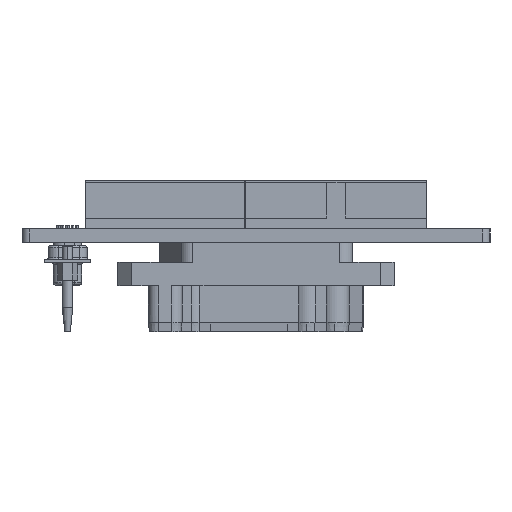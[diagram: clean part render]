
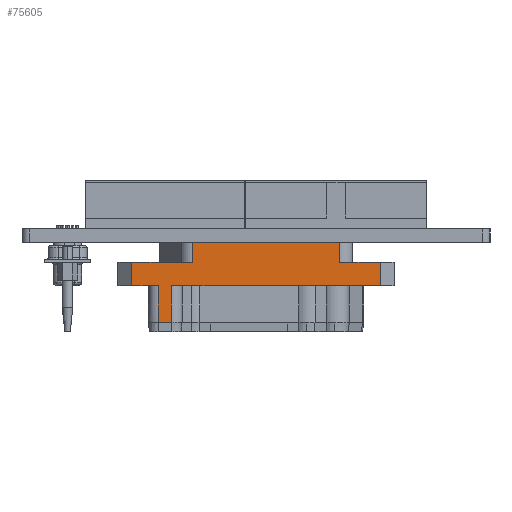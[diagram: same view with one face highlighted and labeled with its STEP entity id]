
A CAD part, left-side view. The second image highlights one B-rep face of the part: STEP entity #75605.
In plain terms, the highlighted planar face has unit normal (-1, 0, 0).
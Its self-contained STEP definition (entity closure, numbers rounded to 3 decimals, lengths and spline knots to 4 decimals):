
#4211=DIRECTION('',(0.,-1.,0.));
#4212=VECTOR('',#4211,1.5938);
#4213=CARTESIAN_POINT('',(-4.6139,0.6868,-0.142));
#4214=LINE('',#4213,#4212);
#25629=DIRECTION('',(0.,-1.,0.));
#25630=VECTOR('',#25629,0.438);
#25631=CARTESIAN_POINT('',(-4.6139,-0.907,-0.362));
#25632=LINE('',#25631,#25630);
#25633=DIRECTION('',(0.,0.,-1.));
#25634=VECTOR('',#25633,0.25);
#25635=CARTESIAN_POINT('',(-4.6139,-1.345,-0.362));
#25636=LINE('',#25635,#25634);
#25637=DIRECTION('',(0.,-1.,0.));
#25638=VECTOR('',#25637,0.6582);
#25639=CARTESIAN_POINT('',(-4.6139,1.345,-0.362));
#25640=LINE('',#25639,#25638);
#25645=DIRECTION('',(0.,0.,1.));
#25646=VECTOR('',#25645,0.22);
#25647=CARTESIAN_POINT('',(-4.6139,-0.907,-0.362));
#25648=LINE('',#25647,#25646);
#25697=DIRECTION('',(0.,0.,-1.));
#25698=VECTOR('',#25697,0.22);
#25699=CARTESIAN_POINT('',(-4.6139,0.6868,-0.142));
#25700=LINE('',#25699,#25698);
#25740=DIRECTION('',(0.,0.,-1.));
#25741=VECTOR('',#25740,0.25);
#25742=CARTESIAN_POINT('',(-4.6139,1.345,-0.362));
#25743=LINE('',#25742,#25741);
#25779=DIRECTION('',(0.,-1.,0.));
#25780=VECTOR('',#25779,0.2888);
#25781=CARTESIAN_POINT('',(-4.6139,1.345,-0.612));
#25782=LINE('',#25781,#25780);
#26187=DIRECTION('',(0.,0.,-1.));
#26188=VECTOR('',#26187,0.4);
#26189=CARTESIAN_POINT('',(-4.6139,1.0562,-0.612));
#26190=LINE('',#26189,#26188);
#26215=DIRECTION('',(0.,-1.,0.));
#26216=VECTOR('',#26215,0.1465);
#26217=CARTESIAN_POINT('',(-4.6139,1.0562,
-1.012));
#26218=LINE('',#26217,#26216);
#26228=DIRECTION('',(0.,0.,1.));
#26229=VECTOR('',#26228,0.4);
#26230=CARTESIAN_POINT('',(-4.6139,0.9098,
-1.012));
#26231=LINE('',#26230,#26229);
#26275=DIRECTION('',(0.,-1.,0.));
#26276=VECTOR('',#26275,2.2548);
#26277=CARTESIAN_POINT('',(-4.6139,0.9098,-0.612));
#26278=LINE('',#26277,#26276);
#35217=CARTESIAN_POINT('',(-4.6139,1.0562,
-1.012));
#35218=CARTESIAN_POINT('',(-4.6139,0.9098,
-1.012));
#35219=VERTEX_POINT('',#35217);
#35220=VERTEX_POINT('',#35218);
#35221=CARTESIAN_POINT('',(-4.6139,1.0562,-0.612));
#35222=VERTEX_POINT('',#35221);
#35223=CARTESIAN_POINT('',(-4.6139,1.345,-0.612));
#35224=VERTEX_POINT('',#35223);
#35225=CARTESIAN_POINT('',(-4.6139,1.345,-0.362));
#35226=VERTEX_POINT('',#35225);
#35227=CARTESIAN_POINT('',(-4.6139,0.6868,-0.362));
#35228=VERTEX_POINT('',#35227);
#35229=CARTESIAN_POINT('',(-4.6139,-0.907,-0.362));
#35230=CARTESIAN_POINT('',(-4.6139,-1.345,-0.362));
#35231=VERTEX_POINT('',#35229);
#35232=VERTEX_POINT('',#35230);
#35233=CARTESIAN_POINT('',(-4.6139,-1.345,-0.612));
#35234=VERTEX_POINT('',#35233);
#35235=CARTESIAN_POINT('',(-4.6139,0.9098,-0.612));
#35236=VERTEX_POINT('',#35235);
#35937=CARTESIAN_POINT('',(-4.6139,0.6868,-0.142));
#35938=CARTESIAN_POINT('',(-4.6139,-0.907,-0.142));
#35939=VERTEX_POINT('',#35937);
#35940=VERTEX_POINT('',#35938);
#75575=CARTESIAN_POINT('',(-4.6139,0.,-0.612));
#75576=DIRECTION('',(1.,0.,0.));
#75577=DIRECTION('',(0.,0.,1.));
#75578=AXIS2_PLACEMENT_3D('',#75575,#75576,#75577);
#75579=PLANE('',#75578);
#75580=ORIENTED_EDGE('',*,*,#38602,.T.);
#75582=ORIENTED_EDGE('',*,*,#75581,.F.);
#75584=ORIENTED_EDGE('',*,*,#75583,.T.);
#75586=ORIENTED_EDGE('',*,*,#75585,.T.);
#75588=ORIENTED_EDGE('',*,*,#75587,.F.);
#75590=ORIENTED_EDGE('',*,*,#75589,.F.);
#75592=ORIENTED_EDGE('',*,*,#75591,.F.);
#75594=ORIENTED_EDGE('',*,*,#75593,.F.);
#75596=ORIENTED_EDGE('',*,*,#75595,.F.);
#75598=ORIENTED_EDGE('',*,*,#75597,.F.);
#75600=ORIENTED_EDGE('',*,*,#75599,.T.);
#75602=ORIENTED_EDGE('',*,*,#75601,.F.);
#75603=EDGE_LOOP('',(#75580,#75582,#75584,#75586,#75588,#75590,#75592,#75594,
#75596,#75598,#75600,#75602));
#75604=FACE_OUTER_BOUND('',#75603,.F.);
#75605=ADVANCED_FACE('',(#75604),#75579,.F.);
#38602=EDGE_CURVE('',#35939,#35940,#4214,.T.);
#75581=EDGE_CURVE('',#35231,#35940,#25648,.T.);
#75583=EDGE_CURVE('',#35231,#35232,#25632,.T.);
#75585=EDGE_CURVE('',#35232,#35234,#25636,.T.);
#75587=EDGE_CURVE('',#35236,#35234,#26278,.T.);
#75589=EDGE_CURVE('',#35220,#35236,#26231,.T.);
#75591=EDGE_CURVE('',#35219,#35220,#26218,.T.);
#75593=EDGE_CURVE('',#35222,#35219,#26190,.T.);
#75595=EDGE_CURVE('',#35224,#35222,#25782,.T.);
#75597=EDGE_CURVE('',#35226,#35224,#25743,.T.);
#75599=EDGE_CURVE('',#35226,#35228,#25640,.T.);
#75601=EDGE_CURVE('',#35939,#35228,#25700,.T.);
